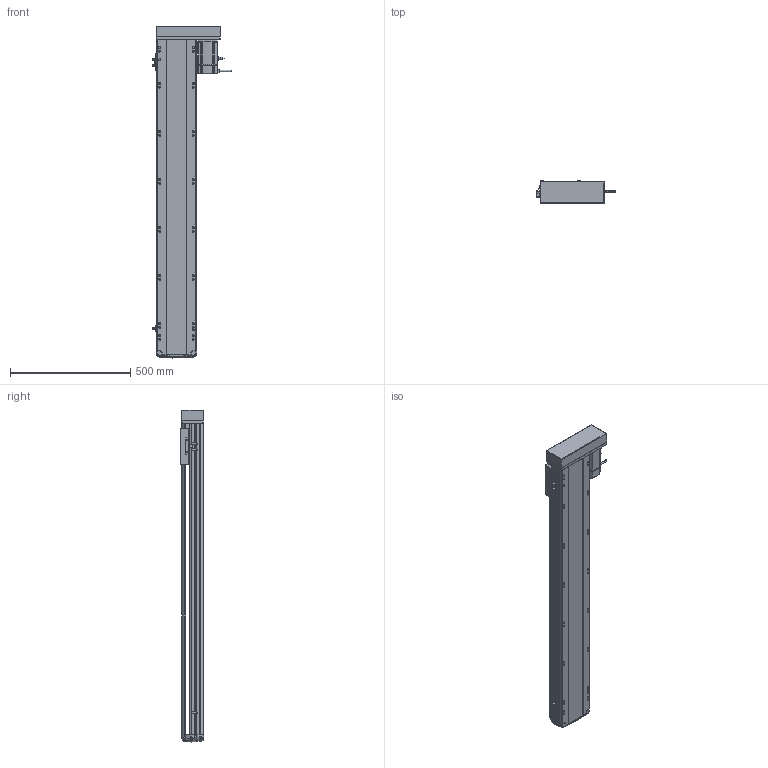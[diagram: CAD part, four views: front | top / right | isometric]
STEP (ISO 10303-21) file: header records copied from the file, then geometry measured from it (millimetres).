
FILE_DESCRIPTION (( 'STEP AP214' ), '1' );
FILE_NAME ('RTH17-XX-1100-L-M75-C4.STEP', '2025-10-24T10:36:09', ( '' ), ( '' ), 'SwSTEP 2.0', 'SolidWorks 2018', '' );
FILE_SCHEMA (( 'AUTOMOTIVE_DESIGN' ));
Length unit declared in the file: millimetre
Products named in the file (10): N_RTH17-E-004丝杆螺母连接座^RTH17-XX-XX-L-M75-C4（方程式）; N_M75^RTH17-XX-XX-L-M75-C4（方程式）; N_RTH17-M-007上盖^RTH17-XX-XX-L-M75-C4（方程式）; N_RTH-L-012 感应片(外置)^RTH17-XX-XX-L-M75-C4（方程式）; N_OMRON EE-SX672 換覜ん^RTH17-XX-XX-L-M75-C4ㄗ源最宒ㄘ; N_RTH17-GY-001P^RTH17-XX-XX-L-M75-C4（方程式）; N_RTH17-L-018盖子^RTH17-XX-XX-L-M75-C4（方程式）; N_RTH17-L-008-P75电机安装板左转折^RTH17-XX-XX-L-M75-C4（方程式）; RTH17-XX-1100-L-M75-C4; N_RTH17-M-011底座^RTH17-XX-XX-L-M75-C4（方程式）
Assembly tree (11 placements, depth 2):
  RTH17-XX-1100-L-M75-C4
    N_RTH17-M-011底座^RTH17-XX-XX-L-M75-C4（方程式）
    N_RTH17-M-007上盖^RTH17-XX-XX-L-M75-C4（方程式）
    N_M75^RTH17-XX-XX-L-M75-C4（方程式）
    N_OMRON EE-SX672 換覜ん^RTH17-XX-XX-L-M75-C4ㄗ源最宒ㄘ  x3
    N_RTH-L-012 感应片(外置)^RTH17-XX-XX-L-M75-C4（方程式）
    N_RTH17-L-008-P75电机安装板左转折^RTH17-XX-XX-L-M75-C4（方程式）
    N_RTH17-L-018盖子^RTH17-XX-XX-L-M75-C4（方程式）
    N_RTH17-E-004丝杆螺母连接座^RTH17-XX-XX-L-M75-C4（方程式）
    N_RTH17-GY-001P^RTH17-XX-XX-L-M75-C4（方程式）
Bounding box: 326.7 x 97 x 1382.99 mm (x, y, z)
Volume: 11946695.5 mm3; surface area: 1497952.1 mm2
Topology: 13 solids, 15 shells, 1789 faces, 4943 edges, 3202 vertices
Faces by surface type: plane 837, cylinder 538, bspline 377, cone 28, torus 9
Entity records: 52717 total; most frequent: CARTESIAN_POINT 21003, ORIENTED_EDGE 6910, DIRECTION 5743, EDGE_CURVE 3459, VERTEX_POINT 2238, AXIS2_PLACEMENT_3D 1945, LINE 1853, VECTOR 1853
